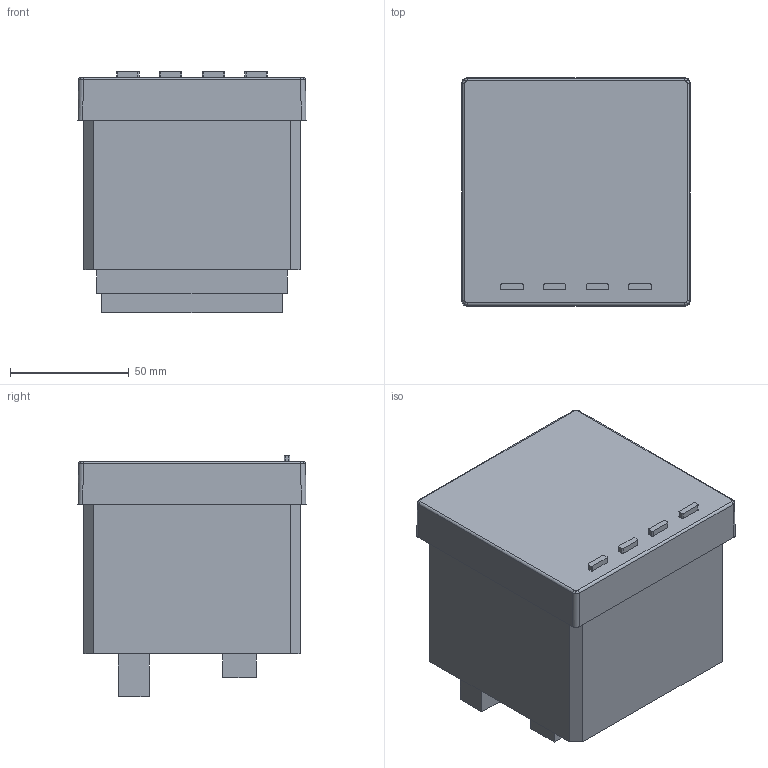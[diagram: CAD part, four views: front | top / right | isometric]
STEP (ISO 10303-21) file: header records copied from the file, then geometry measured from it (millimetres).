
FILE_DESCRIPTION (( 'STEP AP203' ), '1' );
FILE_NAME ('PEM333_Z550xxx.STEP', '2013-09-10T06:44:00', ( '' ), ( '' ), 'SwSTEP 2.0', 'SolidWorks 2013', '' );
FILE_SCHEMA (( 'CONFIG_CONTROL_DESIGN' ));
Length unit declared in the file: millimetre
Products named in the file (1): PEM333_Z550xxx
Bounding box: 96 x 96 x 101.5 mm (x, y, z)
Volume: 713787.1 mm3; surface area: 52660.9 mm2
Topology: 1 solids, 1 shells, 77 faces, 196 edges, 128 vertices
Faces by surface type: plane 45, cylinder 24, bspline 8
Entity records: 2491 total; most frequent: CARTESIAN_POINT 598, ORIENTED_EDGE 392, DIRECTION 360, EDGE_CURVE 196, LINE 132, VECTOR 132, VERTEX_POINT 128, AXIS2_PLACEMENT_3D 114
